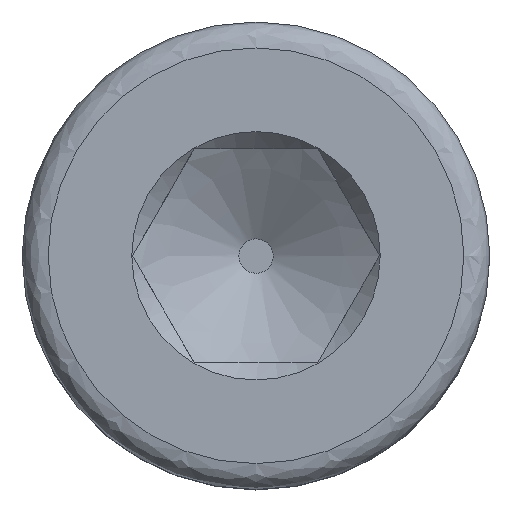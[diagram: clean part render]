
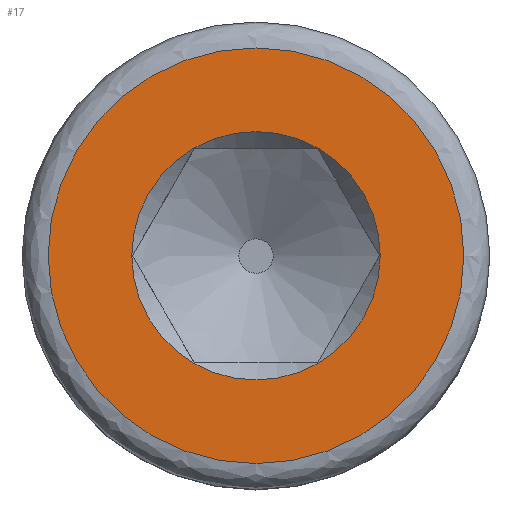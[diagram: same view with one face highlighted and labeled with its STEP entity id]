
A CAD part, top view. The second image highlights one B-rep face of the part: STEP entity #17.
In plain terms, the highlighted planar face has unit normal (0, 0, 1).
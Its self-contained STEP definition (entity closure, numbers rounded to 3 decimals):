
#17 = ADVANCED_FACE('',(#18,#29),#40,.T.);
#18 = FACE_BOUND('',#19,.F.);
#19 = EDGE_LOOP('',(#20));
#20 = ORIENTED_EDGE('',*,*,#21,.T.);
#21 = EDGE_CURVE('',#22,#22,#24,.T.);
#22 = VERTEX_POINT('',#23);
#23 = CARTESIAN_POINT('',(1.195,0.,2.5));
#24 = CIRCLE('',#25,1.195);
#25 = AXIS2_PLACEMENT_3D('',#26,#27,#28);
#26 = CARTESIAN_POINT('',(0.,0.,2.5));
#27 = DIRECTION('',(0.,0.,1.));
#28 = DIRECTION('',(1.,0.,-0.));
#29 = FACE_BOUND('',#30,.F.);
#30 = EDGE_LOOP('',(#31));
#31 = ORIENTED_EDGE('',*,*,#32,.F.);
#32 = EDGE_CURVE('',#33,#33,#35,.T.);
#33 = VERTEX_POINT('',#34);
#34 = CARTESIAN_POINT('',(2.,0.,2.5));
#35 = CIRCLE('',#36,2.);
#36 = AXIS2_PLACEMENT_3D('',#37,#38,#39);
#37 = CARTESIAN_POINT('',(0.,0.,2.5));
#38 = DIRECTION('',(0.,0.,1.));
#39 = DIRECTION('',(1.,0.,-0.));
#40 = PLANE('',#41);
#41 = AXIS2_PLACEMENT_3D('',#42,#43,#44);
#42 = CARTESIAN_POINT('',(0.,0.,2.5));
#43 = DIRECTION('',(0.,0.,1.));
#44 = DIRECTION('',(1.,0.,-0.));
